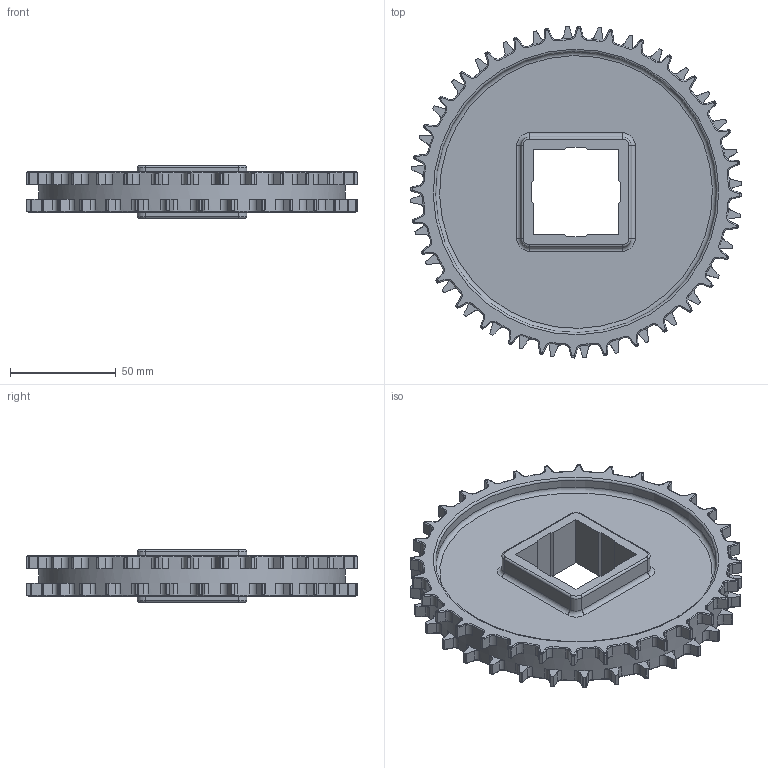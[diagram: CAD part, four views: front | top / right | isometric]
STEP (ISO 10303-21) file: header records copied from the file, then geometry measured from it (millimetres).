
FILE_DESCRIPTION(/* description */ (''),/* implementation_level */ '2;1');
FILE_NAME(/* name */ 'HS-1100B-N-32T.stp',/* time_stamp */ '2024-05-17T09:11:29+08:00',/* author */ (''),/* organization */ (''),/* preprocessor_version */ 'ST-DEVELOPER v15',/* originating_system */ 'SIEMENS PLM Software NX 8.5',/* authorisation */ '');
FILE_SCHEMA (('AP203_CONFIGURATION_CONTROLLED_3D_DESIGN_OF_MECHANICAL_PARTS_AND_ASSEMBLIES_MIM_LF { 1 0 10303 403 2 1 2}'));
Products named in the file (1): Admi28447921lsnf
Bounding box: 156.99 x 156.99 x 25 mm (x, y, z)
Volume: 140340.8 mm3; surface area: 56103.5 mm2
Topology: 1 solids, 1 shells, 1617 faces, 4001 edges, 2163 vertices
Faces by surface type: cylinder 475, bspline 384, torus 340, plane 226, sphere 128, cone 64
Full cylindrical faces by diameter (mm): 133 x2, 145.096 x1
Entity records: 55716 total; most frequent: CARTESIAN_POINT 20598, ORIENTED_EDGE 7528, DIRECTION 7456, EDGE_CURVE 3764, AXIS2_PLACEMENT_3D 3226, VERTEX_POINT 2160, CIRCLE 1992, EDGE_LOOP 1630
